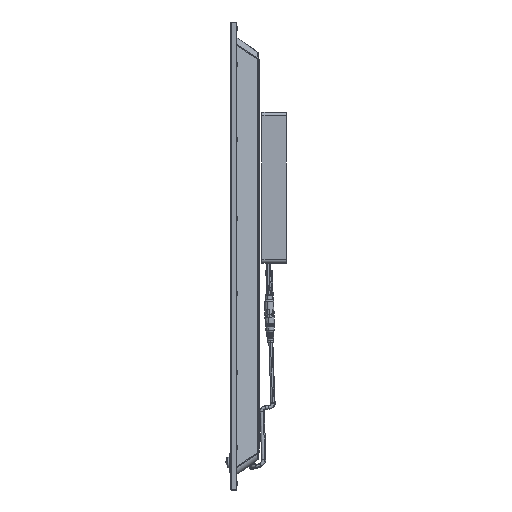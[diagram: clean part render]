
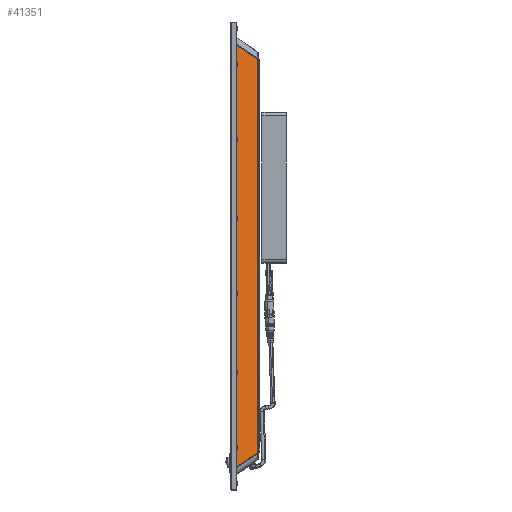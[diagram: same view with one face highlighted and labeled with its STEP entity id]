
A CAD part, left-side view. The second image highlights one B-rep face of the part: STEP entity #41351.
In plain terms, the highlighted planar face has unit normal (-0.819, -0.574, 0).
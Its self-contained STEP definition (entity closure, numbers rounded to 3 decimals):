
#21701=LINE('',#229949,#32897);
#21711=LINE('',#230454,#32907);
#21712=LINE('',#230456,#32908);
#21713=LINE('',#230458,#32909);
#32897=VECTOR('',#168452,1.);
#32907=VECTOR('',#168488,1.);
#32908=VECTOR('',#168489,1.);
#32909=VECTOR('',#168490,1.);
#41351=ADVANCED_FACE('NONE',(#52182),#46295,.T.);
#46295=PLANE('',#143871);
#52182=FACE_OUTER_BOUND('',#59884,.T.);
#59884=EDGE_LOOP('',(#90517,#90518,#90519,#90520));
#90517=ORIENTED_EDGE('',*,*,#129293,.T.);
#90518=ORIENTED_EDGE('',*,*,#129265,.T.);
#90519=ORIENTED_EDGE('',*,*,#129294,.T.);
#90520=ORIENTED_EDGE('',*,*,#129295,.T.);
#112615=VERTEX_POINT('',#229897);
#112619=VERTEX_POINT('',#229948);
#112636=VERTEX_POINT('',#230455);
#112637=VERTEX_POINT('',#230457);
#129265=EDGE_CURVE('NONE',#112615,#112619,#21701,.T.);
#129293=EDGE_CURVE('NONE',#112636,#112615,#21711,.T.);
#129294=EDGE_CURVE('NONE',#112619,#112637,#21712,.T.);
#129295=EDGE_CURVE('NONE',#112637,#112636,#21713,.T.);
#143871=AXIS2_PLACEMENT_3D('',#230459,#168491,#168492);
#168452=DIRECTION('',(0.,0.,-1.));
#168488=DIRECTION('',(-0.498,0.711,0.498));
#168489=DIRECTION('',(0.498,-0.711,0.498));
#168490=DIRECTION('',(0.,0.,1.));
#168491=DIRECTION('',(-0.819,-0.574,0.));
#168492=DIRECTION('',(0.574,-0.819,0.));
#229897=CARTESIAN_POINT('',(-292.452,-1.583,282.622));
#229948=CARTESIAN_POINT('',(-292.452,-1.583,-282.622));
#229949=CARTESIAN_POINT('',(-292.452,-1.583,-293.));
#230454=CARTESIAN_POINT('',(-150.37,-204.497,140.54));
#230455=CARTESIAN_POINT('',(-270.229,-33.321,260.399));
#230456=CARTESIAN_POINT('',(-295.433,2.675,-285.604));
#230457=CARTESIAN_POINT('',(-270.229,-33.321,-260.399));
#230458=CARTESIAN_POINT('',(-270.229,-33.321,-293.));
#230459=CARTESIAN_POINT('',(-293.,-0.8,-293.));
